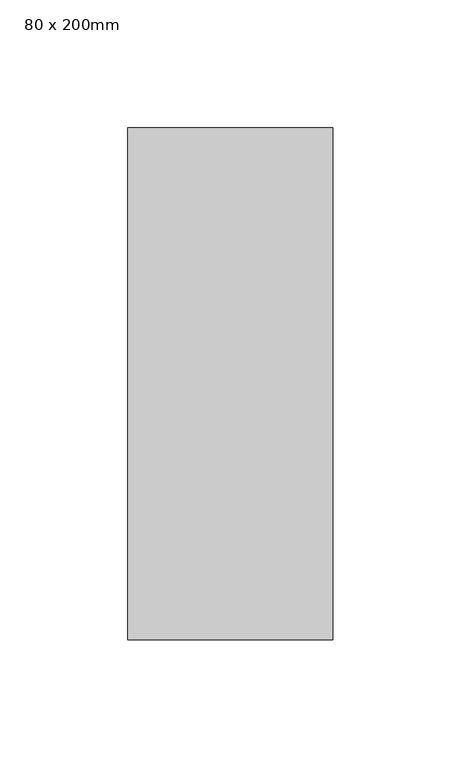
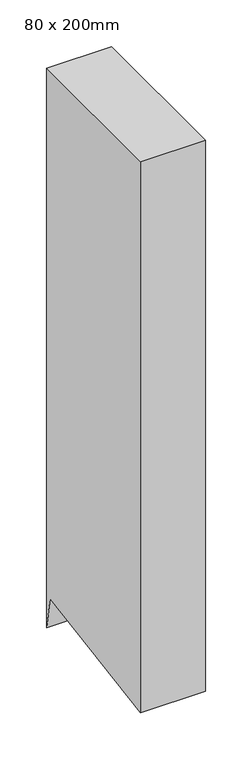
"""IFC4 building model written with IfcOpenShell, lengths in millimetres: member geometry, 矩形竖梃 : 80 x 200mm."""

from ifc_helpers import new_model, si_unit, frame, origin, place, context, project, spatial, polyline, outline, extrude, source, transform, mapped, element, save


def member_80_x_200mm_2dc16a67(model_context):
    return source(origin(), model_context, "Body", "SweptSolid", [
        extrude(outline(polyline([(-100.0, 0.0), (100.0, 0.0), (100.0, -728.7069919), (92.973187, -686.0930148), (-100.0, -717.9132435), (-100.0, 0.0)])), frame((-80.0, 0.0, 0.0), z_axis=(1.0, 0.0, 0.0), x_axis=(0.0, 1.0, 0.0)), (0.0, 0.0, 1.0), 80.0),
    ])


if __name__ == "__main__":
    model = new_model("IFC4")
    model_context = context("Model", 3, world=origin())
    ifc_project = project(units=[si_unit("LENGTHUNIT", "METRE", prefix="MILLI")], contexts=[model_context])
    site = spatial("IfcSite", under=ifc_project)
    building = spatial("IfcBuilding", under=site)
    placement = place(None, origin())
    member_80_x_200mm_shape = member_80_x_200mm_2dc16a67(model_context)
    element("IfcMember", 1, ObjectType="矩形竖梃 : 80 x 200mm", at=placement, inside=building, context=model_context, shape_type="MappedRepresentation", body=[
        mapped(member_80_x_200mm_shape, transform((0.0, 0.0, 0.0), x_axis=(1.0, 0.0, 0.0), y_axis=(0.0, 1.0, 0.0), z_axis=(0.0, 0.0, 1.0))),
    ])
    save(model, "model.ifc")
